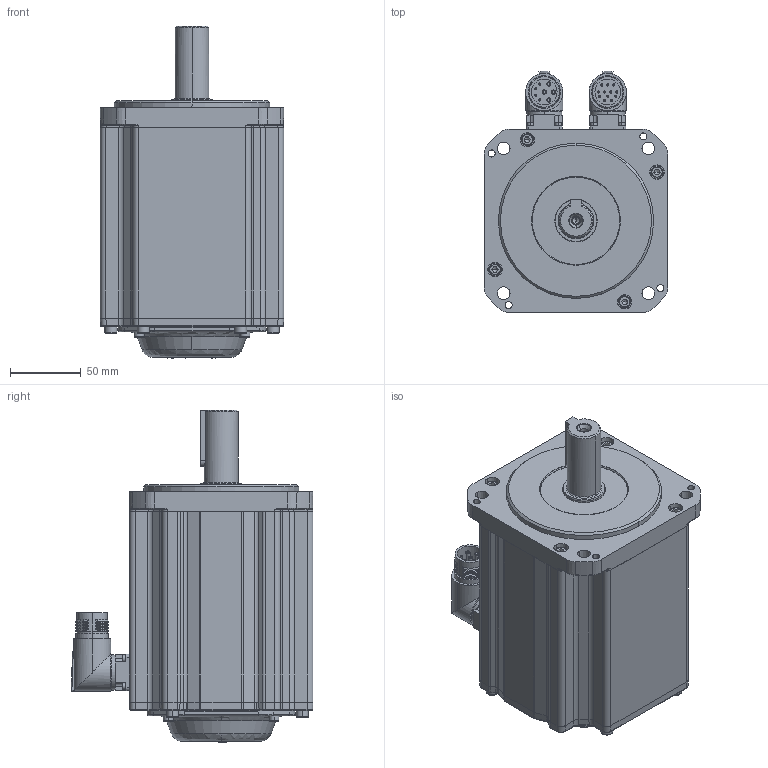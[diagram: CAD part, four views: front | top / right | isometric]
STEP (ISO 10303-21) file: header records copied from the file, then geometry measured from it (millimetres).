
FILE_DESCRIPTION (( 'STEP AP203' ), '1' );
FILE_NAME ('MC20-130-3M20-N202-0¡õPK-NNNN.STEP', '2025-05-04T14:07:56', ( '' ), ( '' ), 'SwSTEP 2.0', 'SolidWorks 2014', '' );
FILE_SCHEMA (( 'CONFIG_CONTROL_DESIGN' ));
Products named in the file (1): MC20-130-3M20-N202-0¡õPK-NNNN
Bounding box: 130 x 171.35 x 235.3 mm (x, y, z)
Volume: 2592693.7 mm3; surface area: 276358.3 mm2
Topology: 28 solids, 28 shells, 2024 faces, 4803 edges, 2863 vertices
Faces by surface type: plane 735, cylinder 568, cone 357, bspline 204, torus 148, sphere 12
Entity records: 62226 total; most frequent: CARTESIAN_POINT 16865, DIRECTION 9530, ORIENTED_EDGE 9382, EDGE_CURVE 4691, AXIS2_PLACEMENT_3D 3694, VERTEX_POINT 2863, EDGE_LOOP 2270, LINE 2142
